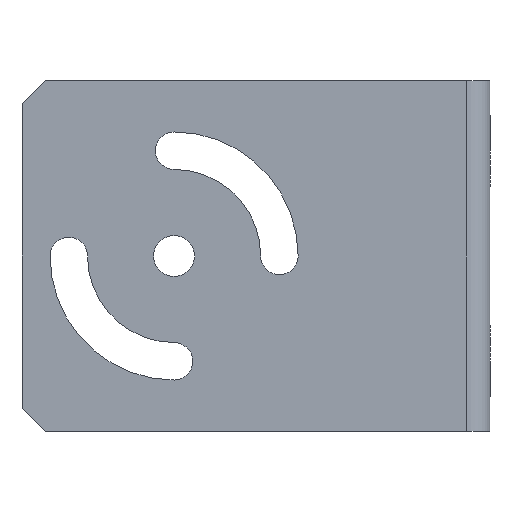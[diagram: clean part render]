
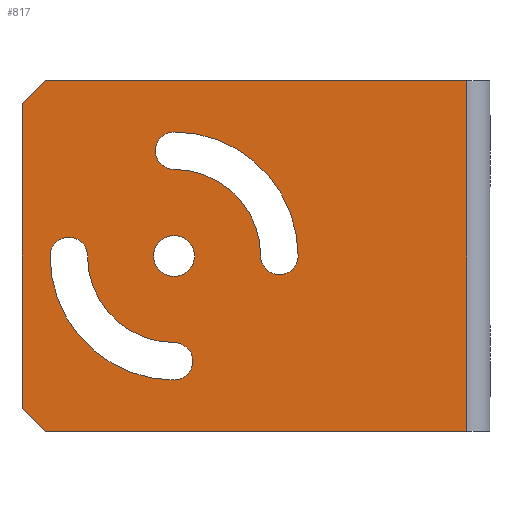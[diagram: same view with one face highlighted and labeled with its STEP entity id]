
A CAD part, left-side view. The second image highlights one B-rep face of the part: STEP entity #817.
In plain terms, the highlighted planar face has unit normal (-1, 0, 0).
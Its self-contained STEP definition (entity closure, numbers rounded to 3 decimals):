
#26 = CARTESIAN_POINT ( 'NONE',  ( 0., 25.4, 6. ) ) ;
#35 = CARTESIAN_POINT ( 'NONE',  ( 0., 2., 0. ) ) ;
#41 = CARTESIAN_POINT ( 'NONE',  ( 0., 27., 25.6 ) ) ;
#42 = ORIENTED_EDGE ( 'NONE', *, *, #141, .F. ) ;
#46 = ORIENTED_EDGE ( 'NONE', *, *, #824, .F. ) ;
#64 = EDGE_LOOP ( 'NONE', ( #334, #787 ) ) ;
#65 = VECTOR ( 'NONE', #698, 1000. ) ;
#66 = DIRECTION ( 'NONE',  ( 0., 1., 0. ) ) ;
#75 = VERTEX_POINT ( 'NONE', #142 ) ;
#76 = LINE ( 'NONE', #535, #685 ) ;
#92 = CARTESIAN_POINT ( 'NONE',  ( 0., 36., 15. ) ) ;
#100 = VERTEX_POINT ( 'NONE', #41 ) ;
#115 = CIRCLE ( 'NONE', #392, 7.4 ) ;
#129 = ORIENTED_EDGE ( 'NONE', *, *, #622, .F. ) ;
#130 = DIRECTION ( 'NONE',  ( 1., 0., 0. ) ) ;
#141 = EDGE_CURVE ( 'NONE', #318, #75, #115, .T. ) ;
#142 = CARTESIAN_POINT ( 'NONE',  ( 0., 19.6, 15. ) ) ;
#147 = LINE ( 'NONE', #772, #372 ) ;
#149 = VERTEX_POINT ( 'NONE', #806 ) ;
#151 = DIRECTION ( 'NONE',  ( 0., 0., -1. ) ) ;
#157 = ORIENTED_EDGE ( 'NONE', *, *, #786, .F. ) ;
#160 = AXIS2_PLACEMENT_3D ( 'NONE', #748, #432, #661 ) ;
#170 = DIRECTION ( 'NONE',  ( -1., 0., 0. ) ) ;
#181 = VERTEX_POINT ( 'NONE', #416 ) ;
#185 = DIRECTION ( 'NONE',  ( 0., -1., 0. ) ) ;
#211 = ORIENTED_EDGE ( 'NONE', *, *, #538, .F. ) ;
#234 = LINE ( 'NONE', #852, #781 ) ;
#240 = VERTEX_POINT ( 'NONE', #745 ) ;
#241 = DIRECTION ( 'NONE',  ( 0., -1., 0. ) ) ;
#246 = ORIENTED_EDGE ( 'NONE', *, *, #791, .T. ) ;
#254 = CARTESIAN_POINT ( 'NONE',  ( 0., 27., 15. ) ) ;
#266 = EDGE_CURVE ( 'NONE', #100, #318, #932, .T. ) ;
#267 = CARTESIAN_POINT ( 'NONE',  ( 0., 27., 15. ) ) ;
#271 = VERTEX_POINT ( 'NONE', #684 ) ;
#297 = VERTEX_POINT ( 'NONE', #354 ) ;
#298 = DIRECTION ( 'NONE',  ( -1., 0., 0. ) ) ;
#303 = DIRECTION ( 'NONE',  ( 0., -0.707, -0.707 ) ) ;
#309 = CARTESIAN_POINT ( 'NONE',  ( 0., 40., 2. ) ) ;
#314 = FACE_BOUND ( 'NONE', #64, .T. ) ;
#316 = DIRECTION ( 'NONE',  ( 0., -1., 0. ) ) ;
#318 = VERTEX_POINT ( 'NONE', #988 ) ;
#323 = CIRCLE ( 'NONE', #1014, 1.6 ) ;
#334 = ORIENTED_EDGE ( 'NONE', *, *, #430, .F. ) ;
#341 = ORIENTED_EDGE ( 'NONE', *, *, #426, .T. ) ;
#354 = CARTESIAN_POINT ( 'NONE',  ( 0., 40., 28. ) ) ;
#362 = VERTEX_POINT ( 'NONE', #940 ) ;
#370 = DIRECTION ( 'NONE',  ( 0., -1., 0. ) ) ;
#372 = VECTOR ( 'NONE', #151, 1000. ) ;
#381 = EDGE_CURVE ( 'NONE', #271, #413, #936, .T. ) ;
#386 = CARTESIAN_POINT ( 'NONE',  ( 0., 2., 30. ) ) ;
#390 = CIRCLE ( 'NONE', #964, 10.6 ) ;
#391 = CARTESIAN_POINT ( 'NONE',  ( 0., 27., 15. ) ) ;
#392 = AXIS2_PLACEMENT_3D ( 'NONE', #420, #801, #185 ) ;
#393 = EDGE_CURVE ( 'NONE', #271, #297, #789, .T. ) ;
#404 = CARTESIAN_POINT ( 'NONE',  ( 0., 25.25, 15. ) ) ;
#405 = VECTOR ( 'NONE', #303, 1000. ) ;
#413 = VERTEX_POINT ( 'NONE', #386 ) ;
#416 = CARTESIAN_POINT ( 'NONE',  ( 0., 34.4, 15. ) ) ;
#420 = CARTESIAN_POINT ( 'NONE',  ( 0., 27., 15. ) ) ;
#421 = AXIS2_PLACEMENT_3D ( 'NONE', #92, #483, #634 ) ;
#426 = EDGE_CURVE ( 'NONE', #362, #240, #628, .T. ) ;
#430 = EDGE_CURVE ( 'NONE', #973, #588, #830, .T. ) ;
#432 = DIRECTION ( 'NONE',  ( -1., 0., 0. ) ) ;
#440 = AXIS2_PLACEMENT_3D ( 'NONE', #254, #170, #241 ) ;
#448 = CARTESIAN_POINT ( 'NONE',  ( 0., 27., 15. ) ) ;
#456 = AXIS2_PLACEMENT_3D ( 'NONE', #942, #542, #66 ) ;
#457 = EDGE_CURVE ( 'NONE', #297, #362, #147, .T. ) ;
#462 = ORIENTED_EDGE ( 'NONE', *, *, #381, .F. ) ;
#466 = CARTESIAN_POINT ( 'NONE',  ( 0., 18., 15. ) ) ;
#473 = CARTESIAN_POINT ( 'NONE',  ( 0., 38., 30. ) ) ;
#483 = DIRECTION ( 'NONE',  ( -1., 0., 0. ) ) ;
#485 = VERTEX_POINT ( 'NONE', #35 ) ;
#492 = AXIS2_PLACEMENT_3D ( 'NONE', #527, #838, #370 ) ;
#503 = VERTEX_POINT ( 'NONE', #651 ) ;
#518 = VERTEX_POINT ( 'NONE', #26 ) ;
#523 = CIRCLE ( 'NONE', #160, 1.6 ) ;
#527 = CARTESIAN_POINT ( 'NONE',  ( 0., 27., 24. ) ) ;
#528 = ORIENTED_EDGE ( 'NONE', *, *, #594, .F. ) ;
#530 = DIRECTION ( 'NONE',  ( 0., -1., 0. ) ) ;
#532 = EDGE_CURVE ( 'NONE', #503, #149, #849, .T. ) ;
#535 = CARTESIAN_POINT ( 'NONE',  ( 0., 2., 30. ) ) ;
#537 = AXIS2_PLACEMENT_3D ( 'NONE', #448, #130, #987 ) ;
#538 = EDGE_CURVE ( 'NONE', #181, #503, #897, .T. ) ;
#541 = ORIENTED_EDGE ( 'NONE', *, *, #393, .T. ) ;
#542 = DIRECTION ( 'NONE',  ( 1., 0., 0. ) ) ;
#550 = FACE_BOUND ( 'NONE', #692, .T. ) ;
#555 = VECTOR ( 'NONE', #316, 1000. ) ;
#558 = DIRECTION ( 'NONE',  ( -1., 0., 0. ) ) ;
#575 = DIRECTION ( 'NONE',  ( -1., 0., 0. ) ) ;
#588 = VERTEX_POINT ( 'NONE', #724 ) ;
#594 = EDGE_CURVE ( 'NONE', #149, #518, #523, .T. ) ;
#600 = CIRCLE ( 'NONE', #440, 1.75 ) ;
#622 = EDGE_CURVE ( 'NONE', #746, #181, #979, .T. ) ;
#623 = ORIENTED_EDGE ( 'NONE', *, *, #266, .F. ) ;
#627 = FACE_BOUND ( 'NONE', #812, .T. ) ;
#628 = LINE ( 'NONE', #309, #405 ) ;
#634 = DIRECTION ( 'NONE',  ( 0., -1., 0. ) ) ;
#651 = CARTESIAN_POINT ( 'NONE',  ( 0., 37.6, 15. ) ) ;
#652 = AXIS2_PLACEMENT_3D ( 'NONE', #689, #298, #530 ) ;
#655 = ORIENTED_EDGE ( 'NONE', *, *, #457, .T. ) ;
#661 = DIRECTION ( 'NONE',  ( 0., -1., 0. ) ) ;
#684 = CARTESIAN_POINT ( 'NONE',  ( 0., 38., 30. ) ) ;
#685 = VECTOR ( 'NONE', #783, 1000. ) ;
#689 = CARTESIAN_POINT ( 'NONE',  ( 0., 27., 6. ) ) ;
#692 = EDGE_LOOP ( 'NONE', ( #954, #157, #42, #623 ) ) ;
#694 = CARTESIAN_POINT ( 'NONE',  ( 0., 40., 30. ) ) ;
#696 = DIRECTION ( 'NONE',  ( 0., -1., 0. ) ) ;
#698 = DIRECTION ( 'NONE',  ( 0., 0.707, -0.707 ) ) ;
#722 = EDGE_LOOP ( 'NONE', ( #727, #246, #462, #541, #655, #341 ) ) ;
#724 = CARTESIAN_POINT ( 'NONE',  ( 0., 28.75, 15. ) ) ;
#727 = ORIENTED_EDGE ( 'NONE', *, *, #831, .T. ) ;
#745 = CARTESIAN_POINT ( 'NONE',  ( 0., 38., 0. ) ) ;
#746 = VERTEX_POINT ( 'NONE', #983 ) ;
#748 = CARTESIAN_POINT ( 'NONE',  ( 0., 27., 6. ) ) ;
#759 = EDGE_CURVE ( 'NONE', #926, #100, #390, .T. ) ;
#764 = CARTESIAN_POINT ( 'NONE',  ( 0., 27., 15. ) ) ;
#766 = AXIS2_PLACEMENT_3D ( 'NONE', #267, #575, #888 ) ;
#772 = CARTESIAN_POINT ( 'NONE',  ( 0., 40., 30. ) ) ;
#780 = AXIS2_PLACEMENT_3D ( 'NONE', #391, #558, #1012 ) ;
#781 = VECTOR ( 'NONE', #843, 1000. ) ;
#783 = DIRECTION ( 'NONE',  ( 0., 0., 1. ) ) ;
#786 = EDGE_CURVE ( 'NONE', #75, #926, #323, .T. ) ;
#787 = ORIENTED_EDGE ( 'NONE', *, *, #971, .F. ) ;
#789 = LINE ( 'NONE', #473, #65 ) ;
#791 = EDGE_CURVE ( 'NONE', #485, #413, #76, .T. ) ;
#801 = DIRECTION ( 'NONE',  ( 1., 0., 0. ) ) ;
#806 = CARTESIAN_POINT ( 'NONE',  ( 0., 27., 4.4 ) ) ;
#812 = EDGE_LOOP ( 'NONE', ( #1010, #211, #129, #46, #528 ) ) ;
#817 = ADVANCED_FACE ( 'NONE', ( #314, #550, #627, #859 ), #847, .F. ) ;
#824 = EDGE_CURVE ( 'NONE', #518, #746, #915, .T. ) ;
#830 = CIRCLE ( 'NONE', #780, 1.75 ) ;
#831 = EDGE_CURVE ( 'NONE', #240, #485, #234, .T. ) ;
#838 = DIRECTION ( 'NONE',  ( -1., 0., 0. ) ) ;
#843 = DIRECTION ( 'NONE',  ( 0., -1., 0. ) ) ;
#847 = PLANE ( 'NONE',  #456 ) ;
#849 = CIRCLE ( 'NONE', #766, 10.6 ) ;
#852 = CARTESIAN_POINT ( 'NONE',  ( 0., 40., 0. ) ) ;
#859 = FACE_OUTER_BOUND ( 'NONE', #722, .T. ) ;
#881 = CARTESIAN_POINT ( 'NONE',  ( 0., 16.4, 15. ) ) ;
#888 = DIRECTION ( 'NONE',  ( 0., -1., 0. ) ) ;
#897 = CIRCLE ( 'NONE', #421, 1.6 ) ;
#915 = CIRCLE ( 'NONE', #652, 1.6 ) ;
#926 = VERTEX_POINT ( 'NONE', #881 ) ;
#928 = DIRECTION ( 'NONE',  ( -1., 0., 0. ) ) ;
#932 = CIRCLE ( 'NONE', #492, 1.6 ) ;
#936 = LINE ( 'NONE', #694, #555 ) ;
#940 = CARTESIAN_POINT ( 'NONE',  ( 0., 40., 2. ) ) ;
#942 = CARTESIAN_POINT ( 'NONE',  ( 0., 40., 30. ) ) ;
#954 = ORIENTED_EDGE ( 'NONE', *, *, #759, .F. ) ;
#964 = AXIS2_PLACEMENT_3D ( 'NONE', #764, #928, #696 ) ;
#971 = EDGE_CURVE ( 'NONE', #588, #973, #600, .T. ) ;
#973 = VERTEX_POINT ( 'NONE', #404 ) ;
#979 = CIRCLE ( 'NONE', #537, 7.4 ) ;
#983 = CARTESIAN_POINT ( 'NONE',  ( 0., 27., 7.6 ) ) ;
#987 = DIRECTION ( 'NONE',  ( 0., -1., 0. ) ) ;
#988 = CARTESIAN_POINT ( 'NONE',  ( 0., 27., 22.4 ) ) ;
#1002 = DIRECTION ( 'NONE',  ( 0., -1., 0. ) ) ;
#1010 = ORIENTED_EDGE ( 'NONE', *, *, #532, .F. ) ;
#1011 = DIRECTION ( 'NONE',  ( -1., 0., 0. ) ) ;
#1012 = DIRECTION ( 'NONE',  ( 0., -1., 0. ) ) ;
#1014 = AXIS2_PLACEMENT_3D ( 'NONE', #466, #1011, #1002 ) ;
